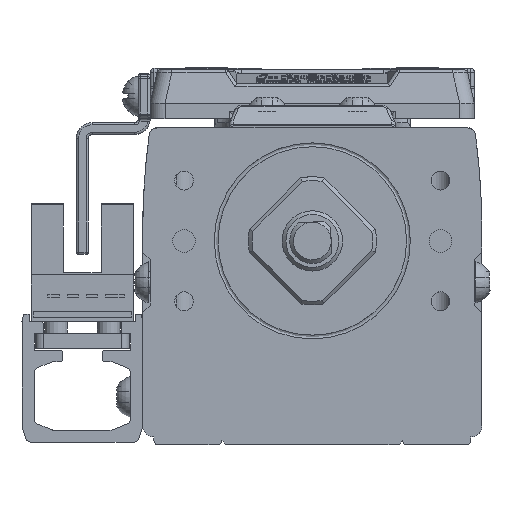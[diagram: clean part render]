
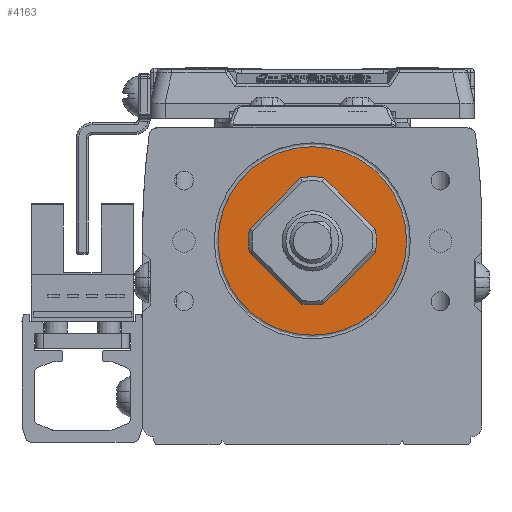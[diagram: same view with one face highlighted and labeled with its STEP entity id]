
A CAD part, left-side view. The second image highlights one B-rep face of the part: STEP entity #4163.
In plain terms, the highlighted planar face has unit normal (-1, 0, 0) as drawn and (0, 0, 1) by its records, which use the part's own axes.
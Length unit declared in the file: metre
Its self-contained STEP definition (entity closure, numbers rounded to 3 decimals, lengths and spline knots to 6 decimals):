
#4163=ADVANCED_FACE('',(#9084,#9085),#9086,.T.);
#9084=FACE_OUTER_BOUND('',#16546,.T.);
#9085=FACE_BOUND('',#16547,.T.);
#9086=PLANE('',#16548);
#16546=EDGE_LOOP('',(#27869));
#16547=EDGE_LOOP('',(#27870));
#16548=AXIS2_PLACEMENT_3D('',#27871,#27872,#27873);
#27869=ORIENTED_EDGE('',*,*,#42754,.T.);
#27870=ORIENTED_EDGE('',*,*,#42755,.F.);
#27871=CARTESIAN_POINT('',(0.000046,-0.005386,0.018));
#27872=DIRECTION('',(0.0,0.0,1.0));
#27873=DIRECTION('',(1.0,0.0,0.0));
#42754=EDGE_CURVE('',#51181,#51181,#51182,.T.);
#42755=EDGE_CURVE('',#51183,#51183,#51184,.T.);
#51181=VERTEX_POINT('',#63109);
#51182=CIRCLE('',#63110,0.0125);
#51183=VERTEX_POINT('',#63111);
#51184=CIRCLE('',#63112,0.004);
#63109=CARTESIAN_POINT('',(-0.0125,0.,0.018));
#63110=AXIS2_PLACEMENT_3D('',#73987,#73988,#73989);
#63111=CARTESIAN_POINT('',(0.004,0.0,0.018));
#63112=AXIS2_PLACEMENT_3D('',#73990,#73991,#73992);
#73987=CARTESIAN_POINT('',(0.0,0.,0.018));
#73988=DIRECTION('',(0.0,0.0,1.0));
#73989=DIRECTION('',(1.0,0.0,0.0));
#73990=CARTESIAN_POINT('',(0.0,0.0,0.018));
#73991=DIRECTION('',(0.0,0.0,1.0));
#73992=DIRECTION('',(-1.0,0.0,0.0));
